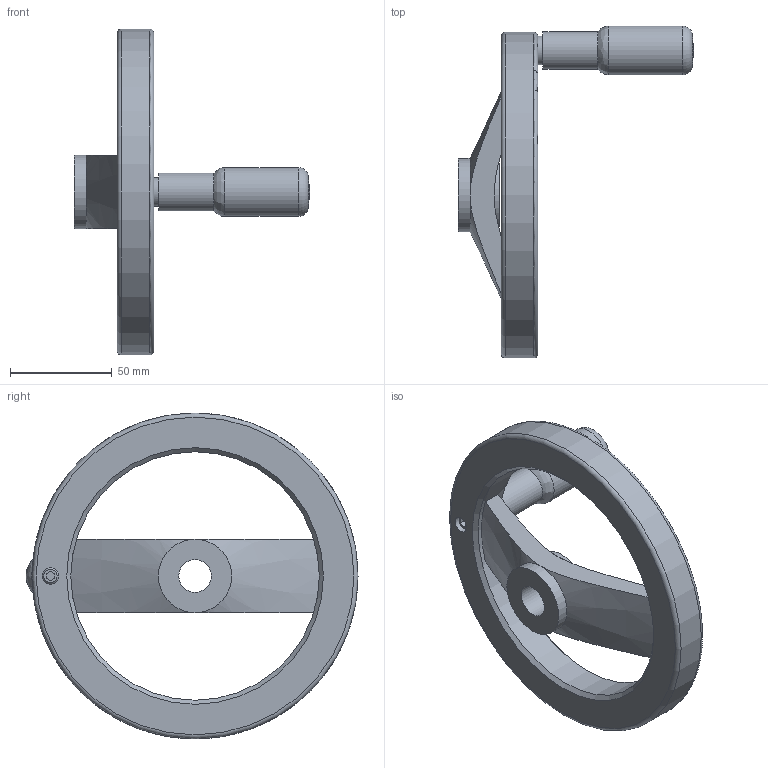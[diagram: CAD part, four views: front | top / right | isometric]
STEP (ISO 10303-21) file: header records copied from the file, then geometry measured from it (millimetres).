
FILE_DESCRIPTION( ( 'STEP AP203' ), '1' );
FILE_NAME( 'C:/Temp/Ganter_Step_05_03_2020/data/1_3/gn_324/gn_324_b/gn_324_b_d/Handwheel, matt black GN 324-160-B16-R.stp', '2020-03-05T10:32:57', ( 'License CC BY-ND 4.0' ), ( 'CADENAS' ), ' ', 'PARTsolutions', ' ' );
FILE_SCHEMA( ( 'CONFIG_CONTROL_DESIGN' ) );
Length unit declared in the file: millimetre
Products named in the file (1): _Handwheel, matt black GN 324-160-B16-R
Bounding box: 115.5 x 163 x 160 mm (x, y, z)
Volume: 227756.7 mm3; surface area: 49542.9 mm2
Topology: 1 solids, 2 shells, 40 faces, 88 edges, 53 vertices
Faces by surface type: plane 16, cylinder 11, cone 8, torus 3, bspline 1, sphere 1
Full cylindrical faces by diameter (mm): 6.446 x1, 8 x2, 14 x1, 16 x1, 18.5 x1, 24 x1, 36 x2, 122 x1, 160 x1
Entity records: 1167 total; most frequent: CARTESIAN_POINT 326, DIRECTION 170, ORIENTED_EDGE 128, AXIS2_PLACEMENT_3D 74, EDGE_LOOP 69, EDGE_CURVE 64, FACE_OUTER_BOUND 55, VERTEX_POINT 50
